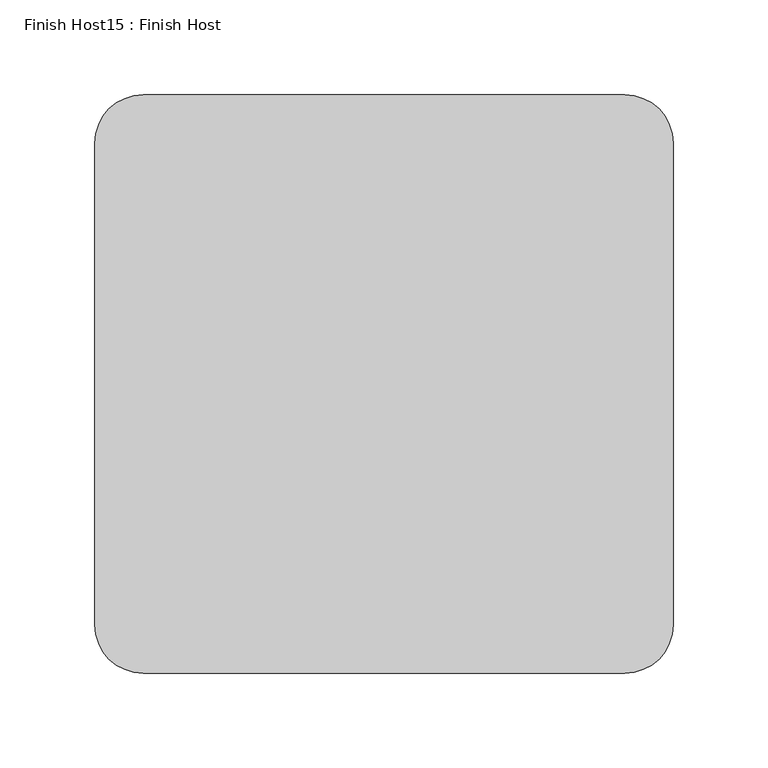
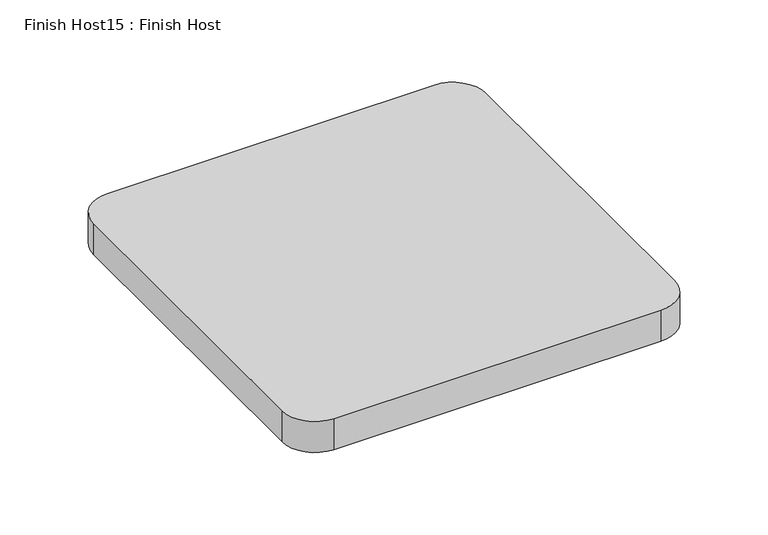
"""IFC4 building model written with IfcOpenShell, lengths in millimetres: proxy geometry, Finish Host15 : Finish Host."""

from ifc_helpers import new_model, si_unit, point, frame_2d, origin, origin_with_axes, place, context, project, spatial, polyline, circle_curve, trimmed, segment, composite_curve, outline, extrude, source, transform, mapped, element, save


def finish_host15_finish_host_9cf1034e(model_context):
    return source(origin(), model_context, "Body", "SweptSolid", [
        extrude(outline(composite_curve([segment(polyline([(3628.5649374, 2023.3667263), (3628.5649374, 2277.3667263)]), True, "CONTINUOUS"), segment(trimmed(circle_curve(frame_2d((3653.9649374, 2277.3667263)), 25.4), [point((3628.5649374, 2277.3667263))], [point((3653.9649374, 2302.7667263))], False, "CARTESIAN"), True, "CONTINUOUS"), segment(polyline([(3653.9649374, 2302.7667263), (3907.9649374, 2302.7667263)]), True, "CONTINUOUS"), segment(trimmed(circle_curve(frame_2d((3907.9649374, 2277.3667263)), 25.4), [point((3907.9649374, 2302.7667263))], [point((3933.3649374, 2277.3667263))], False, "CARTESIAN"), True, "CONTINUOUS"), segment(polyline([(3933.3649374, 2277.3667263), (3933.3649374, 2023.3667263)]), True, "CONTINUOUS"), segment(trimmed(circle_curve(frame_2d((3907.9649374, 2023.3667263)), 25.4), [point((3933.3649374, 2023.3667263))], [point((3907.9649374, 1997.9667263))], False, "CARTESIAN"), True, "CONTINUOUS"), segment(polyline([(3907.9649374, 1997.9667263), (3653.9649374, 1997.9667263)]), True, "CONTINUOUS"), segment(trimmed(circle_curve(frame_2d((3653.9649374, 2023.3667263)), 25.4), [point((3653.9649374, 1997.9667263))], [point((3628.5649374, 2023.3667263))], False, "CARTESIAN"), True, "CONTINUOUS")], self_intersect=False)), origin_with_axes(), (0.0, 0.0, 1.0), 25.4),
    ])


if __name__ == "__main__":
    model = new_model("IFC4")
    model_context = context("Model", 3, world=origin())
    ifc_project = project(units=[si_unit("LENGTHUNIT", "METRE", prefix="MILLI")], contexts=[model_context])
    site = spatial("IfcSite", under=ifc_project)
    building = spatial("IfcBuilding", under=site)
    placement = place(None, origin())
    finish_host15_finish_host_shape = finish_host15_finish_host_9cf1034e(model_context)
    element("IfcBuildingElementProxy", 1, Name="Finish Host15 : Finish Host", ObjectType="Finish Host15 : Finish Host", at=placement, inside=building, context=model_context, shape_type="MappedRepresentation", body=[
        mapped(finish_host15_finish_host_shape, transform((0.0, 0.0, 0.0), x_axis=(1.0, 0.0, 0.0), y_axis=(0.0, 1.0, 0.0), z_axis=(0.0, 0.0, 1.0))),
    ])
    save(model, "model.ifc")
